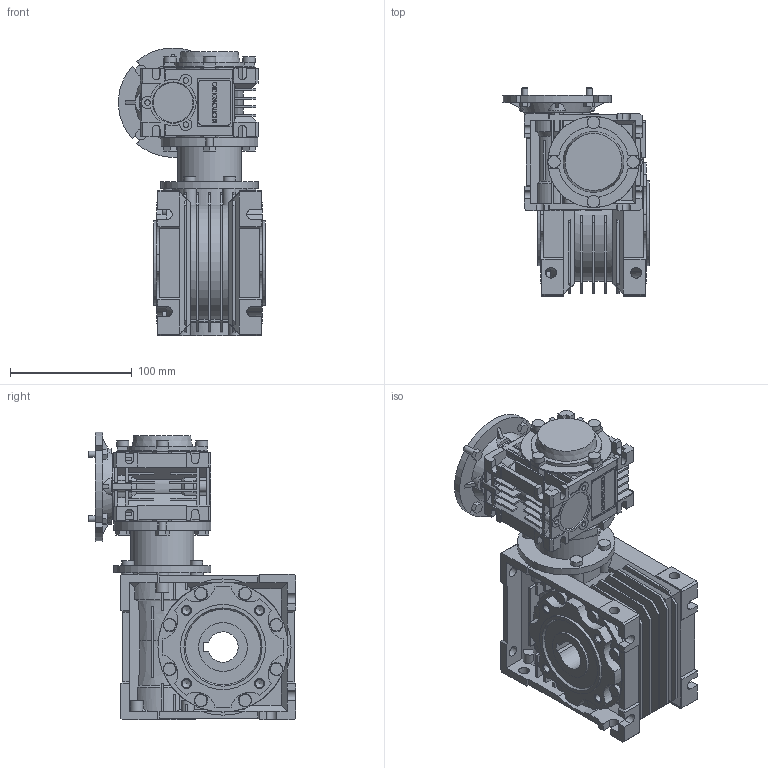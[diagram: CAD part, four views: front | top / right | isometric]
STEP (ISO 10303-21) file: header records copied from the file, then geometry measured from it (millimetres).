
FILE_DESCRIPTION(/* description */ ('STEP AP214'),/* implementation_level */ '2;1');
FILE_NAME(/* name */ 'NMRV-NMRV030-050100 (10x10)813125NO11NO00NO---(--------)',/* time_stamp */ '2024-10-22T10:54:57+02:00',/* author */ ('License CC BY-ND 4.0'),/* organization */ ('CADENAS'),/* preprocessor_version */ 'ST-DEVELOPER v19.3',/* originating_system */ 'PARTsolutions',/* authorisation */ ' ');
FILE_SCHEMA (('AUTOMOTIVE_DESIGN {1 0 10303 214 3 1 1}'));
Length unit declared in the file: millimetre
Products named in the file (13): NMRV-NMRV030-050100 (10x10)813125NO11NO00NO---(--------); 030-050100 (10x10)81314125No11No00NO---(--------)-d; 030-050100 (10x10)813125No11No00NO---d1; 030-050100 (10x10)813125No11No00T0631-d1; Gear unit 50; 050-25 (92)alc-n; VB 050-14 (14); Gear unit 30; 030-14 (63)alc-n; FT 030-050; Hollow shaft 30; VB 030-11 (11); 30-63 B14
Assembly tree (13 placements, depth 2):
  NMRV-NMRV030-050100 (10x10)813125NO11NO00NO---(--------)
    030-050100 (10x10)81314125No11No00NO---(--------)-d
    030-050100 (10x10)813125No11No00NO---d1
    030-050100 (10x10)813125No11No00T0631-d1  x2
    Gear unit 50
    050-25 (92)alc-n
    VB 050-14 (14)
    Gear unit 30
    030-14 (63)alc-n
    FT 030-050
    Hollow shaft 30
    VB 030-11 (11)
    30-63 B14
Bounding box: 120.85 x 171 x 236.85 mm (x, y, z)
Volume: 1513198.6 mm3; surface area: 352647.9 mm2
Topology: 9 solids, 21 shells, 1688 faces, 4464 edges, 2908 vertices
Faces by surface type: plane 1236, cylinder 354, cone 96, torus 2
Full cylindrical faces by diameter (mm): 3.545 x3, 3.775 x3, 4.65 x3, 4.917 x8, 5 x4, 5.55 x4, 6 x4, 6.647 x8, 8.8 x8, 10 x20, 16 x1, 19 x2, 24.8 x2, 28 x2, 30 x2, 34 x1, 37 x1, 38 x1, 40 x2, 47 x1, 52 x1, 55 x3, 60 x1, 70 x2, 75 x1, 80 x1, 107 x1
Entity records: 63038 total; most frequent: CARTESIAN_POINT 9601, ORIENTED_EDGE 8582, DIRECTION 8509, EDGE_CURVE 4291, LINE 3077, VECTOR 3077, VERTEX_POINT 2885, AXIS2_PLACEMENT_3D 2716
